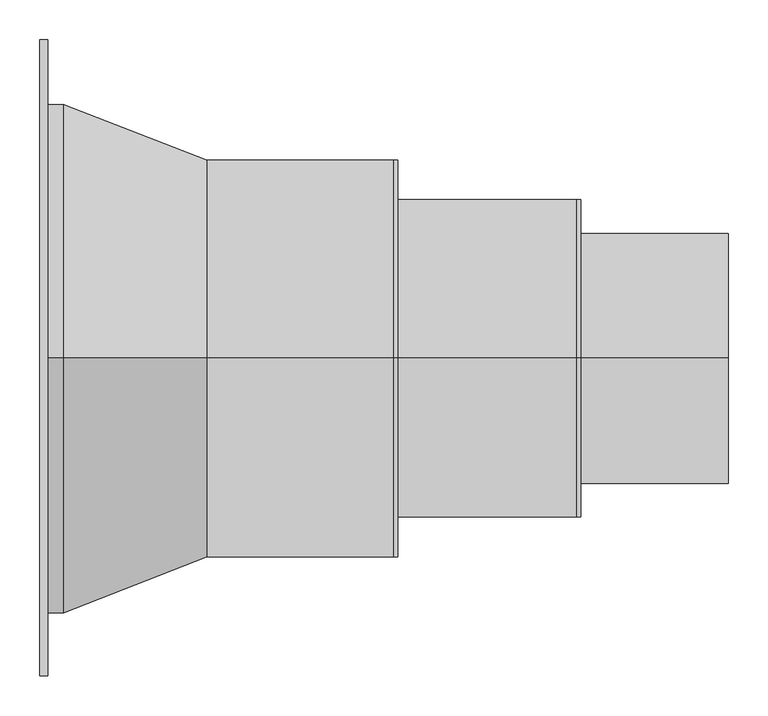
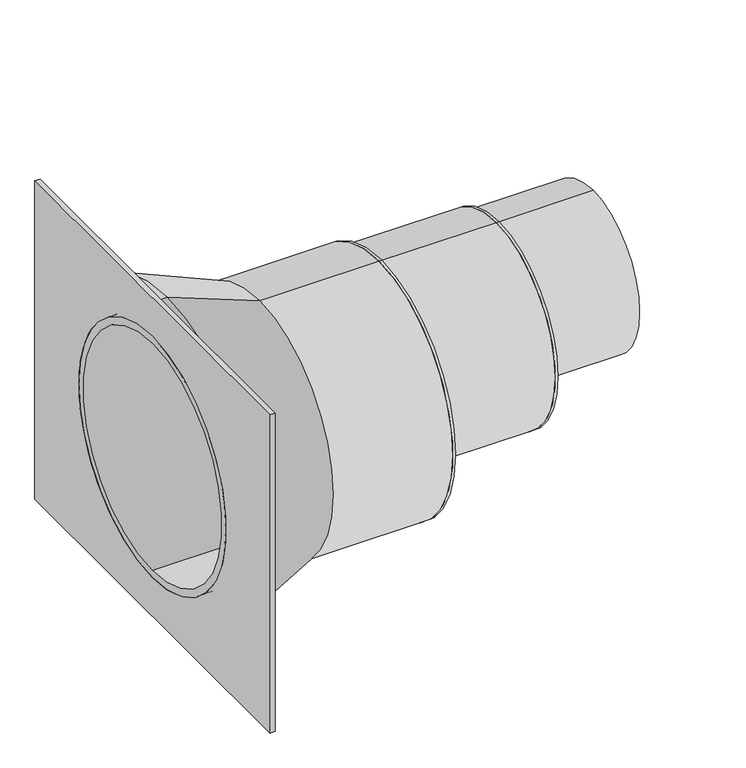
"""IFC4 building model written with IfcOpenShell, lengths in millimetres: proxy geometry, GRAF EcoBloc adaptor plate : GRAF EcoBloc adaptor plate."""

from ifc_helpers import new_model, si_unit, point, frame, frame_2d, origin, place, context, project, spatial, polyline, circle_curve, trimmed, segment, composite_curve, outline, extrude, source, transform, mapped, element, save
from ifc_brep_helpers import plane_surface, cylinder_surface, revolved_surface, advanced_brep


def specialty_equipment_2ab5d599(model_context):
    return source(origin(), model_context, "Body", "SolidModel", [
        extrude(outline(composite_curve([segment(trimmed(circle_curve(frame_2d((0.0, 380.0)), 200.0), [point((0.0, 580.0))], [point((0.0, 180.0))], False, "CARTESIAN"), True, "CONTINUOUS"), segment(trimmed(circle_curve(frame_2d((0.0, 380.0)), 200.0), [point((0.0, 180.0))], [point((0.0, 580.0))], False, "CARTESIAN"), True, "CONTINUOUS")], self_intersect=False)), frame((-482.5, 0.0, 0.0), z_axis=(1.0, 0.0, 0.0), x_axis=(0.0, 1.0, 0.0)), (0.0, 0.0, 1.0), 5.0),
        extrude(outline(composite_curve([segment(trimmed(circle_curve(frame_2d((0.0, 422.5)), 157.5), [point((0.0, 580.0))], [point((0.0, 265.0))], False, "CARTESIAN"), True, "CONTINUOUS"), segment(trimmed(circle_curve(frame_2d((0.0, 422.5)), 157.5), [point((0.0, 265.0))], [point((0.0, 580.0))], False, "CARTESIAN"), True, "CONTINUOUS")], self_intersect=False), holes=[composite_curve([segment(trimmed(circle_curve(frame_2d((0.0, 422.5)), 145.0), [point((0.0, 567.5))], [point((0.0, 277.5))], True, "CARTESIAN"), True, "CONTINUOUS"), segment(trimmed(circle_curve(frame_2d((0.0, 422.5)), 145.0), [point((0.0, 277.5))], [point((0.0, 567.5))], True, "CARTESIAN"), True, "CONTINUOUS")], self_intersect=False)]), frame((-482.5, 0.0, 0.0), z_axis=(1.0, 0.0, 0.0), x_axis=(0.0, 1.0, 0.0)), (0.0, 0.0, 1.0), 190.0),
        extrude(outline(composite_curve([segment(trimmed(circle_curve(frame_2d((0.0, 330.0)), 250.0), [point((0.0, 580.0))], [point((0.0, 80.0))], False, "CARTESIAN"), True, "CONTINUOUS"), segment(trimmed(circle_curve(frame_2d((0.0, 330.0)), 250.0), [point((0.0, 80.0))], [point((0.0, 580.0))], False, "CARTESIAN"), True, "CONTINUOUS")], self_intersect=False)), frame((-712.5, 0.0, 0.0), z_axis=(1.0, 0.0, 0.0), x_axis=(0.0, 1.0, 0.0)), (0.0, 0.0, 1.0), 5.0),
        extrude(outline(composite_curve([segment(trimmed(circle_curve(frame_2d((0.0, 380.0)), 200.0), [point((0.0, 580.0))], [point((0.0, 180.0))], False, "CARTESIAN"), True, "CONTINUOUS"), segment(trimmed(circle_curve(frame_2d((0.0, 380.0)), 200.0), [point((0.0, 180.0))], [point((0.0, 580.0))], False, "CARTESIAN"), True, "CONTINUOUS")], self_intersect=False), holes=[composite_curve([segment(trimmed(circle_curve(frame_2d((0.0, 380.0)), 185.0), [point((0.0, 565.0))], [point((0.0, 195.0))], True, "CARTESIAN"), True, "CONTINUOUS"), segment(trimmed(circle_curve(frame_2d((0.0, 380.0)), 185.0), [point((0.0, 195.0))], [point((0.0, 565.0))], True, "CARTESIAN"), True, "CONTINUOUS")], self_intersect=False)]), frame((-712.5, 0.0, 0.0), z_axis=(1.0, 0.0, 0.0), x_axis=(0.0, 1.0, 0.0)), (0.0, 0.0, 1.0), 230.0),
        advanced_brep(
        [(-947.5, 0.0, 580.7474578), (-947.5, 0.0, 80.0), (-947.5, 0.0, 81.0), (-947.5, 0.0, 579.7474578), (-1127.5, 0.0, 650.7474578), (-1127.5, 0.0, 10.0), (-1147.5, 0.0, 650.7474578), (-1147.5, 0.0, 10.0), (-1147.5, 0.0, 579.7474578), (-1147.5, 0.0, 81.0)],
        [
            (0, 1, circle_curve(frame((-947.5, 0.0, 330.3737289), z_axis=(1.0, 0.0, 0.0), x_axis=(0.0, 0.0, -1.0)), 250.3737289)),
            (1, 2),
            (2, 3, circle_curve(frame((-947.5, 0.0, 330.3737289), z_axis=(-1.0, 0.0, 0.0), x_axis=(0.0, 0.0, -1.0)), 249.3737289)),
            (3, 0),
            (1, 0, circle_curve(frame((-947.5, 0.0, 330.3737289), z_axis=(1.0, 0.0, 0.0), x_axis=(0.0, 0.0, -1.0)), 250.3737289)),
            (3, 2, circle_curve(frame((-947.5, 0.0, 330.3737289), z_axis=(-1.0, 0.0, 0.0), x_axis=(0.0, 0.0, -1.0)), 249.3737289)),
            (4, 5, circle_curve(frame((-1127.5, 0.0, 330.3737289), z_axis=(1.0, 0.0, 0.0), x_axis=(0.0, 0.0, -1.0)), 320.3737289)),
            (5, 1),
            (0, 4),
            (5, 4, circle_curve(frame((-1127.5, 0.0, 330.3737289), z_axis=(1.0, 0.0, 0.0), x_axis=(0.0, 0.0, -1.0)), 320.3737289)),
            (6, 7, circle_curve(frame((-1147.5, 0.0, 330.3737289), z_axis=(1.0, 0.0, 0.0), x_axis=(0.0, 0.0, -1.0)), 320.3737289)),
            (7, 5),
            (4, 6),
            (7, 6, circle_curve(frame((-1147.5, 0.0, 330.3737289), z_axis=(1.0, 0.0, 0.0), x_axis=(0.0, 0.0, -1.0)), 320.3737289)),
            (8, 9, circle_curve(frame((-1147.5, 0.0, 330.3737289), z_axis=(1.0, 0.0, 0.0), x_axis=(0.0, 0.0, -1.0)), 249.3737289)),
            (9, 7),
            (6, 8),
            (9, 8, circle_curve(frame((-1147.5, 0.0, 330.3737289), z_axis=(1.0, 0.0, 0.0), x_axis=(0.0, 0.0, -1.0)), 249.3737289)),
            (2, 9),
            (8, 3),
        ],
        [
            plane_surface(frame((-947.5, 0.0, 330.3737289), z_axis=(1.0, 0.0, 0.0), x_axis=(0.0, 0.0, -1.0))),
            revolved_surface(polyline([(-947.5, 0.0, 80.0), (-1127.5, 0.0, 10.0)]), (-1107.5, 0.0, 330.3737289), (-1.0, 0.0, 0.0)),
            cylinder_surface(frame((-1107.5, 0.0, 330.3737289), z_axis=(-1.0, 0.0, 0.0), x_axis=(0.0, 0.0, -1.0)), 320.3737289),
            plane_surface(frame((-1147.5, 0.0, 330.3737289), z_axis=(-1.0, 0.0, 0.0), x_axis=(0.0, 0.0, -1.0))),
            revolved_surface(polyline([(-1147.5, 0.0, 81.0), (-947.5, 0.0, 81.0)]), (-1107.5, 0.0, 330.3737289), (-1.0, 0.0, 0.0)),
        ],
        [
            (0, [[1, 2, 3, 4]]),
            (0, [[5, -4, 6, -2]]),
            (1, [[7, 8, -1, 9]]),
            (1, [[10, -9, -5, -8]]),
            (2, [[11, 12, -7, 13]]),
            (2, [[14, -13, -10, -12]]),
            (3, [[15, 16, -11, 17]]),
            (3, [[18, -17, -14, -16]]),
            (4, [[-3, 19, -15, 20]]),
            (4, [[-6, -20, -18, -19]]),
        ],
    ),
        extrude(outline(polyline([(-400.0, 660.0), (400.0, 660.0), (400.0, 0.0), (-400.0, 0.0), (-400.0, 660.0)]), holes=[composite_curve([segment(trimmed(circle_curve(frame_2d((0.0, 330.0)), 250.0), [point((0.0, 580.0))], [point((0.0, 80.0))], True, "CARTESIAN"), True, "CONTINUOUS"), segment(trimmed(circle_curve(frame_2d((0.0, 330.0)), 250.0), [point((0.0, 80.0))], [point((0.0, 580.0))], True, "CARTESIAN"), True, "CONTINUOUS")], self_intersect=False)]), frame((-1157.5, 0.0, 0.0), z_axis=(1.0, 0.0, 0.0), x_axis=(0.0, 1.0, 0.0)), (0.0, 0.0, 1.0), 10.0),
        extrude(outline(composite_curve([segment(trimmed(circle_curve(frame_2d((0.0, 330.0)), 250.0), [point((0.0, 580.0))], [point((0.0, 80.0))], False, "CARTESIAN"), True, "CONTINUOUS"), segment(trimmed(circle_curve(frame_2d((0.0, 330.0)), 250.0), [point((0.0, 80.0))], [point((0.0, 580.0))], False, "CARTESIAN"), True, "CONTINUOUS")], self_intersect=False), holes=[composite_curve([segment(trimmed(circle_curve(frame_2d((0.0, 330.0)), 235.0), [point((0.0, 565.0))], [point((0.0, 95.0))], True, "CARTESIAN"), True, "CONTINUOUS"), segment(trimmed(circle_curve(frame_2d((0.0, 330.0)), 235.0), [point((0.0, 95.0))], [point((0.0, 565.0))], True, "CARTESIAN"), True, "CONTINUOUS")], self_intersect=False)]), frame((-1157.5, 0.0, 0.0), z_axis=(1.0, 0.0, 0.0), x_axis=(0.0, 1.0, 0.0)), (0.0, 0.0, 1.0), 445.0),
    ])


if __name__ == "__main__":
    model = new_model("IFC4")
    model_context = context("Model", 3, world=origin())
    ifc_project = project(units=[si_unit("LENGTHUNIT", "METRE", prefix="MILLI")], contexts=[model_context])
    site = spatial("IfcSite", under=ifc_project)
    building = spatial("IfcBuilding", under=site)
    placement = place(None, origin())
    specialty_equipment_shape = specialty_equipment_2ab5d599(model_context)
    element("IfcBuildingElementProxy", 1, Name="GRAF EcoBloc adaptor plate : GRAF EcoBloc adaptor plate", ObjectType="GRAF EcoBloc adaptor plate : GRAF EcoBloc adaptor plate", at=placement, inside=building, context=model_context, shape_type="MappedRepresentation", body=[
        mapped(specialty_equipment_shape, transform((0.0, 0.0, 0.0), x_axis=(1.0, 0.0, 0.0), y_axis=(0.0, 1.0, 0.0), z_axis=(0.0, 0.0, 1.0))),
    ])
    save(model, "model.ifc")
